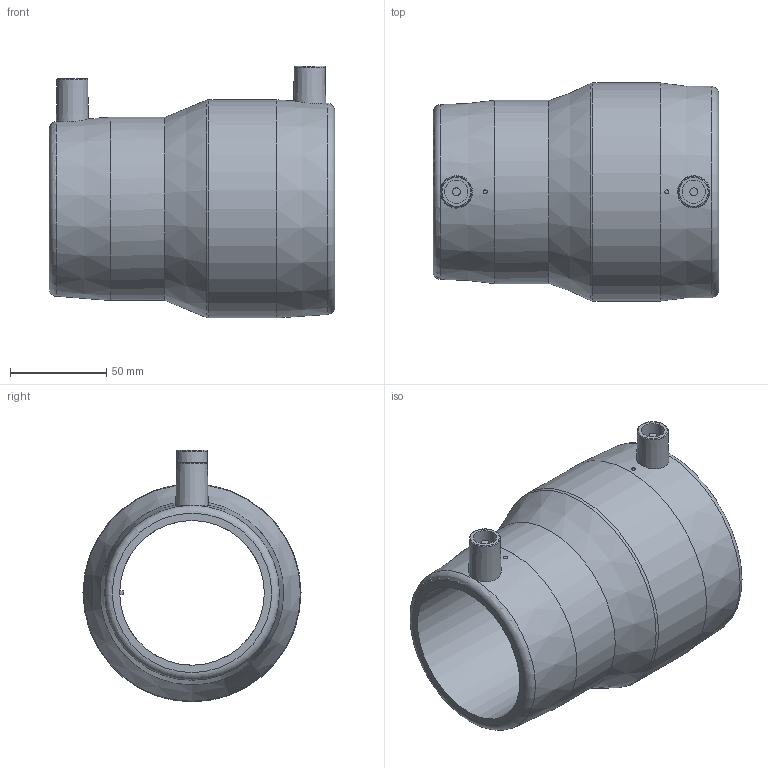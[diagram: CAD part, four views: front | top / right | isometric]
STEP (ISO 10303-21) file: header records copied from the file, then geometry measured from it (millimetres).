
FILE_DESCRIPTION(/* description */ ('Unknown'),/* implementation_level */ '2;1');
FILE_NAME(/* name */ 'REP090075C',/* time_stamp */ '2021-05-25T17:45:46+02:00',/* author */ ('Unknown'),/* organization */ ('Unknown'),/* preprocessor_version */ 'ST-DEVELOPER v16.7',/* originating_system */ 'Solid Edge',/* authorisation */ 'Unknown');
FILE_SCHEMA (('AUTOMOTIVE_DESIGN {1 0 10303 214 3 1 1}'));
Length unit declared in the file: millimetre
Products named in the file (1): REP090075C
Bounding box: 148 x 113 x 130.5 mm (x, y, z)
Volume: 459731.3 mm3; surface area: 94961.6 mm2
Topology: 1 solids, 1 shells, 36 faces, 80 edges, 51 vertices
Faces by surface type: plane 15, cylinder 10, cone 6, torus 5
Full cylindrical faces by diameter (mm): 2 x2, 4 x2, 12 x2, 75 x1, 90 x1, 95 x1, 113 x1
Entity records: 847 total; most frequent: CARTESIAN_POINT 177, DIRECTION 142, ORIENTED_EDGE 88, EDGE_LOOP 66, FACE_BOUND 66, AXIS2_PLACEMENT_3D 66, EDGE_CURVE 44, VERTEX_POINT 38
